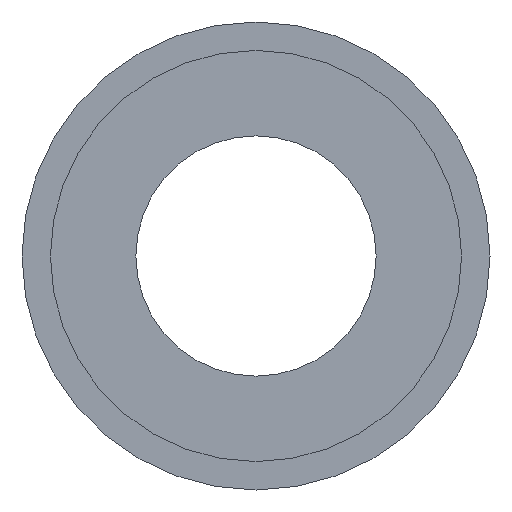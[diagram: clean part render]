
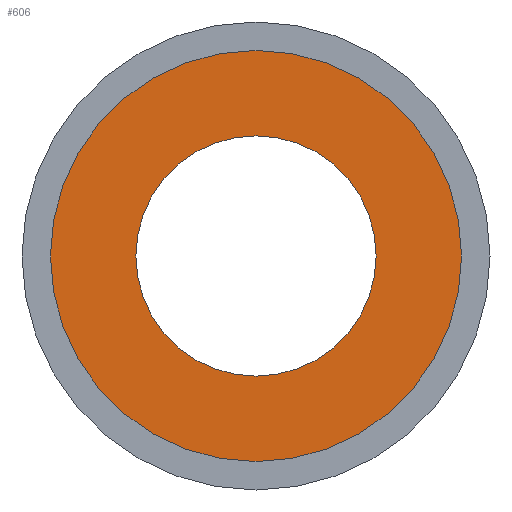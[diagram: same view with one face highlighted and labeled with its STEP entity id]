
A CAD part, front view. The second image highlights one B-rep face of the part: STEP entity #606.
In plain terms, the highlighted planar face has unit normal (0, -1, 0).
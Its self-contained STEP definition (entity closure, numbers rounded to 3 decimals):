
#340 = ORIENTED_EDGE ( 'NONE', *, *, #1568, .T. ) ;
#341 = DIRECTION ( 'NONE',  ( 0., -1., 0. ) ) ;
#465 = VERTEX_POINT ( 'NONE', #3553 ) ;
#533 = EDGE_LOOP ( 'NONE', ( #1496, #340 ) ) ;
#534 = CARTESIAN_POINT ( 'NONE',  ( 0., -14., 19. ) ) ;
#585 = AXIS2_PLACEMENT_3D ( 'NONE', #1363, #3353, #3628 ) ;
#606 = ADVANCED_FACE ( 'NONE', ( #1550, #802 ), #3673, .F. ) ;
#647 = CARTESIAN_POINT ( 'NONE',  ( 0., -14., 0. ) ) ;
#802 = FACE_OUTER_BOUND ( 'NONE', #533, .T. ) ;
#940 = AXIS2_PLACEMENT_3D ( 'NONE', #647, #341, #1171 ) ;
#1057 = DIRECTION ( 'NONE',  ( 0., -1., 0. ) ) ;
#1171 = DIRECTION ( 'NONE',  ( 0., 0., -1. ) ) ;
#1363 = CARTESIAN_POINT ( 'NONE',  ( 0., -14., 0. ) ) ;
#1390 = DIRECTION ( 'NONE',  ( 0., 1., 0. ) ) ;
#1413 = DIRECTION ( 'NONE',  ( 0., 0., 1. ) ) ;
#1447 = CARTESIAN_POINT ( 'NONE',  ( 0., -14., 0. ) ) ;
#1492 = CIRCLE ( 'NONE', #2710, 19. ) ;
#1496 = ORIENTED_EDGE ( 'NONE', *, *, #3052, .T. ) ;
#1550 = FACE_BOUND ( 'NONE', #2249, .T. ) ;
#1568 = EDGE_CURVE ( 'NONE', #3013, #465, #2438, .T. ) ;
#1678 = AXIS2_PLACEMENT_3D ( 'NONE', #534, #1390, #1413 ) ;
#1859 = CIRCLE ( 'NONE', #585, 32.5 ) ;
#1955 = CARTESIAN_POINT ( 'NONE',  ( 0., -14., 32.5 ) ) ;
#2074 = CIRCLE ( 'NONE', #940, 19. ) ;
#2099 = CARTESIAN_POINT ( 'NONE',  ( 0., -14., 19. ) ) ;
#2168 = CARTESIAN_POINT ( 'NONE',  ( 0., -14., -19. ) ) ;
#2212 = VERTEX_POINT ( 'NONE', #2168 ) ;
#2249 = EDGE_LOOP ( 'NONE', ( #2598, #2311 ) ) ;
#2311 = ORIENTED_EDGE ( 'NONE', *, *, #2539, .F. ) ;
#2433 = EDGE_CURVE ( 'NONE', #2212, #2646, #1492, .T. ) ;
#2438 = CIRCLE ( 'NONE', #2558, 32.5 ) ;
#2539 = EDGE_CURVE ( 'NONE', #2646, #2212, #2074, .T. ) ;
#2558 = AXIS2_PLACEMENT_3D ( 'NONE', #3570, #1057, #3597 ) ;
#2588 = DIRECTION ( 'NONE',  ( 0., -1., 0. ) ) ;
#2598 = ORIENTED_EDGE ( 'NONE', *, *, #2433, .F. ) ;
#2646 = VERTEX_POINT ( 'NONE', #2099 ) ;
#2710 = AXIS2_PLACEMENT_3D ( 'NONE', #1447, #2588, #3413 ) ;
#3013 = VERTEX_POINT ( 'NONE', #1955 ) ;
#3052 = EDGE_CURVE ( 'NONE', #465, #3013, #1859, .T. ) ;
#3353 = DIRECTION ( 'NONE',  ( 0., -1., 0. ) ) ;
#3413 = DIRECTION ( 'NONE',  ( 0., 0., -1. ) ) ;
#3553 = CARTESIAN_POINT ( 'NONE',  ( 0., -14., -32.5 ) ) ;
#3570 = CARTESIAN_POINT ( 'NONE',  ( 0., -14., 0. ) ) ;
#3597 = DIRECTION ( 'NONE',  ( 0., 0., -1. ) ) ;
#3628 = DIRECTION ( 'NONE',  ( 0., 0., -1. ) ) ;
#3673 = PLANE ( 'NONE',  #1678 ) ;
